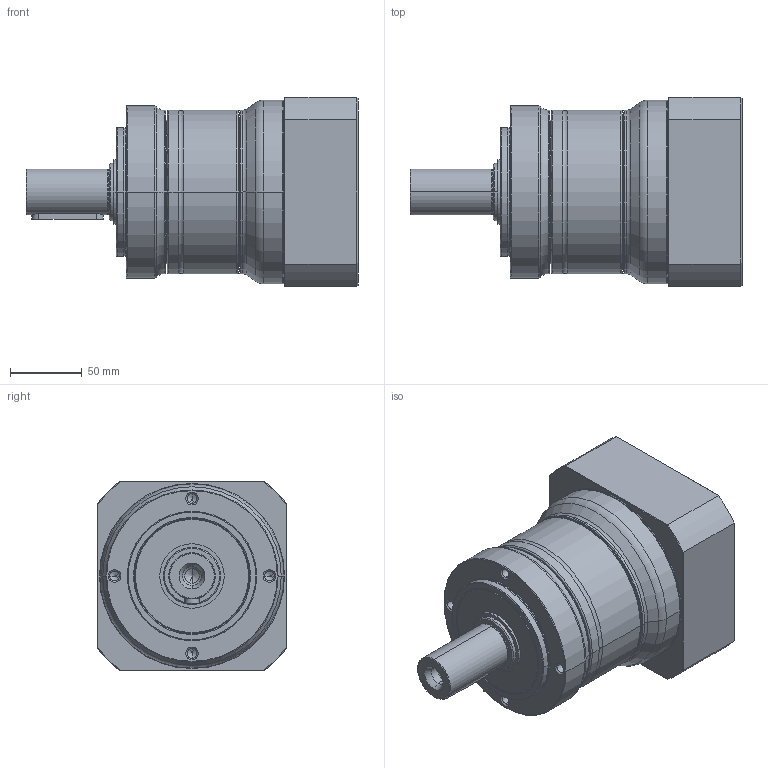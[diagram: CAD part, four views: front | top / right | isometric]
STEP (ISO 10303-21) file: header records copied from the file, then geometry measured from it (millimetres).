
FILE_DESCRIPTION((''),'2;1');
FILE_NAME('PE2-120_1ST_35-P0411800101_ASM','2017-05-31T',('d01943'),(''),'PRO/ENGINEER BY PARAMETRIC TECHNOLOGY CORPORATION, 2008410','PRO/ENGINEER BY PARAMETRIC TECHNOLOGY CORPORATION, 2008410','');
FILE_SCHEMA(('CONFIG_CONTROL_DESIGN'));
Length unit declared in the file: millimetre
Products named in the file (9): P1323410001; P0250400001; P1324400401; P0350401001; P0941404001; P0503800010; P0411800101; P1702600001; PE2-120_1ST_35-P0411800101_ASM
Assembly tree (8 placements, depth 2):
  PE2-120_1ST_35-P0411800101_ASM
    P1323410001
    P0250400001
    P1324400401
    P0350401001
    P0941404001
    P0503800010
    P0411800101
    P1702600001
Bounding box: 231.5 x 132 x 132 mm (x, y, z)
Volume: 1548524.9 mm3; surface area: 267946.8 mm2
Topology: 8 solids, 8 shells, 465 faces, 1019 edges, 584 vertices
Faces by surface type: cone 138, cylinder 136, torus 98, plane 77, bspline 16
Entity records: 17371 total; most frequent: CARTESIAN_POINT 6943, DIRECTION 2377, ORIENTED_EDGE 1974, AXIS2_PLACEMENT_3D 1021, EDGE_CURVE 987, VERTEX_POINT 584, CIRCLE 555, EDGE_LOOP 527
